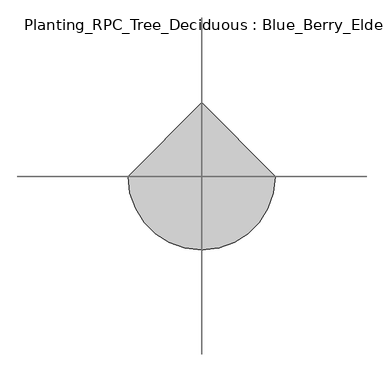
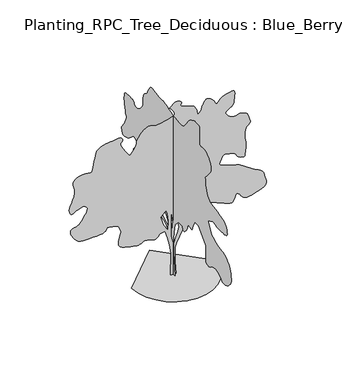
"""IFC4 building model written with IfcOpenShell, lengths in millimetres: geographic element geometry, Planting_RPC_Tree_Deciduous : Blue_Berry_Elder-4.5_Meters."""

from ifc_helpers import new_model, si_unit, origin, place, context, project, spatial, triangles, source, transform, mapped, element, save


def planting_rpc_tree_deciduous_blue_berry_elder_4_5_meters_08da9c25(model_context):
    return source(origin(), model_context, "Body", "Tessellation", [
        triangles([(-0.0014684, 58.7037978, 0.0041346), (-0.0014684, -62.498052, 0.0041346), (-0.0014684, -15.3641626, 565.6129683), (-0.0014684, -1.8971866, 909.0182064), (-0.0014684, -22.0974929, 1104.2884094), (-0.0014684, -75.9650625, 1326.4911255), (-0.0014684, -224.1009287, 1474.6287403), (-0.0014684, -378.970291, 1474.6287403), (-0.0014684, -412.6378218, 1380.3586224), (-0.0014684, -479.9703761, 1387.0936764), (-0.0014684, -554.0404552, 1474.6287403), (-0.0014684, -601.1729708, 1568.8962421), (-0.0014684, -628.1080273, 1663.1638893), (-0.0014684, -702.1755266, 1636.2313763), (-0.0014684, -782.9756092, 1629.4963223), (-0.0014684, -857.0431812, 1797.8338669), (-0.0014684, -910.9107508, 1898.833952), (-0.0014684, -1059.0483656, 1892.1015141), (-0.0014684, -1173.5159426, 1797.8338669), (-0.0014684, -1382.2535648, 1575.6288254), (-0.0014684, -1388.9861481, 1353.4261093), (-0.0014684, -1386.9236286, 1327.021035), (-0.0014684, -1382.3910564, 1295.553479), (-0.0014684, -1377.8561588, 1261.3760593), (-0.0014684, -1375.7936394, 1226.8434288), (-0.0014684, -1378.6786377, 1194.3159811), (-0.0014684, -1388.9861481, 1166.1458982), (-0.0014684, -1409.1860779, 1144.6884144), (-0.0014684, -1434.4711624, 1129.1809307), (-0.0014684, -1458.931152, 1117.9109064), (-0.0014684, -1483.3911415, 1111.8258854), (-0.0014684, -1508.676226, 1111.8658539), (-0.0014684, -1535.6112099, 1118.9734142), (-0.0014684, -1565.0162464, 1134.0884073), (-0.0014684, -1597.723843, 1158.1559063), (-0.0014684, -1638.2812511, 1183.6959171), (-0.0014684, -1688.0263252, 1202.5209309), (-0.0014684, -1742.9539318, 1214.5159836), (-0.0014684, -1799.0589375, 1219.5610245), (-0.0014684, -1852.3364994, 1217.5409443), (-0.0014684, -1898.783955, 1208.3334394), (-0.0014684, -1934.3939907, 1191.8234734), (-0.0014684, -1963.8416119, 1167.0484594), (-0.0014684, -1995.1715309, 1136.2684341), (-0.0014684, -2029.446619, 1104.1908863), (-0.0014684, -2067.729166, 1075.5283916), (-0.0014684, -2111.0741947, 1054.9958513), (-0.0014684, -2160.5442856, 1047.2983561), (-0.0014684, -2217.1992577, 1057.1533504), (-0.0014684, -2275.1493542, 1083.4008762), (-0.0014684, -2327.094294, 1119.5408941), (-0.0014684, -2371.9694618, 1162.2784018), (-0.0014684, -2408.7193989, 1208.3134552), (-0.0014684, -2436.2819607, 1254.348436), (-0.0014684, -2453.5944214, 1297.0834728), (-0.0014684, -2459.6019035, 1333.2260342), (-0.0014684, -2455.754464, 1372.7236233), (-0.0014684, -2445.3120781, 1424.1161259), (-0.0014684, -2429.919413, 1481.9887562), (-0.0014684, -2411.2318909, 1540.9212055), (-0.0014684, -2390.8944695, 1595.4962173), (-0.0014684, -2370.5569027, 1640.2937737), (-0.0014684, -2351.8669098, 1669.8963272), (-0.0014684, -2330.1568977, 1694.4363991), (-0.0014684, -2300.1992786, 1725.2163517), (-0.0014684, -2262.8217636, 1758.5913494), (-0.0014684, -2218.8493023, 1790.903912), (-0.0014684, -2169.1042282, 1818.5039715), (-0.0014684, -2114.4116364, 1837.74146), (-0.0014684, -2055.5966217, 1844.9664551), (-0.0014684, -1994.4066067, 1849.8740044), (-0.0014684, -1932.1564819, 1863.6164795), (-0.0014684, -1869.0239983, 1884.7189705), (-0.0014684, -1805.1839996, 1911.7115089), (-0.0014684, -1740.8139462, 1943.1215103), (-0.0014684, -1676.0888271, 1977.4765354), (-0.0014684, -1611.1887188, 2013.3016743), (-0.0014684, -1469.786158, 2275.9068661), (-0.0014684, -1685.2562908, 2376.9094219), (-0.0014684, -1714.2713802, 2368.3093655), (-0.0014684, -1744.228854, 2360.0643745), (-0.0014684, -1776.0713871, 2352.5268986), (-0.0014684, -1810.7388931, 2346.049387), (-0.0014684, -1849.1765179, 2340.9844345), (-0.0014684, -1892.3265003, 2337.686816), (-0.0014684, -1941.1290447, 2336.5068008), (-0.0014684, -1996.881601, 2336.291843), (-0.0014684, -2057.3441895, 2336.4293346), (-0.0014684, -2118.1616982, 2338.0968201), (-0.0014684, -2174.9742188, 2342.4769306), (-0.0014684, -2223.421843, 2350.7393623), (-0.0014684, -2259.1517841, 2364.0693626), (-0.0014684, -2277.7993378, 2383.6418598), (-0.0014684, -2281.3742649, 2414.4819832), (-0.0014684, -2275.8767807, 2457.2194908), (-0.0014684, -2262.9592552, 2506.4269524), (-0.0014684, -2244.2692623, 2556.7020813), (-0.0014684, -2221.4593174, 2602.6271851), (-0.0014684, -2196.1742329, 2638.7770134), (-0.0014684, -2170.0641987, 2659.7021896), (-0.0014684, -2143.7191498, 2670.2021301), (-0.0014684, -2115.1367374, 2679.2771576), (-0.0014684, -2082.0791622, 2687.9772079), (-0.0014684, -2042.3065899, 2697.4022141), (-0.0014684, -1993.581657, 2708.6021118), (-0.0014684, -1933.6665642, 2722.6021294), (-0.0014684, -1860.3264187, 2740.5021996), (-0.0014684, -1781.7239491, 2758.3022758), (-0.0014684, -1708.0688519, 2773.1522415), (-0.0014684, -1640.1837513, 2787.8522163), (-0.0014684, -1578.8962132, 2805.302314), (-0.0014684, -1525.0287163, 2828.2773651), (-0.0014684, -1479.4062103, 2859.6021973), (-0.0014684, -1442.8536449, 2902.1272179), (-0.0014684, -1414.8411106, 2953.5272781), (-0.0014684, -1393.5411026, 3009.1773697), (-0.0014684, -1377.8361019, 3068.3775352), (-0.0014684, -1366.6061188, 3130.3775299), (-0.0014684, -1358.7336342, 3194.527684), (-0.0014684, -1353.1011292, 3260.0777527), (-0.0014684, -1348.5861431, 3326.3277786), (-0.0014684, -1398.7811897, 3378.2528069), (-0.0014684, -1447.1536732, 3430.0528427), (-0.0014684, -1491.8711472, 3481.6278923), (-0.0014684, -1531.1136646, 3532.8529633), (-0.0014684, -1563.0537209, 3583.577774), (-0.0014684, -1585.8662819, 3633.7529091), (-0.0014684, -1597.723843, 3683.2030884), (-0.0014684, -1593.7187096, 3737.8779488), (-0.0014684, -1572.2812099, 3799.8529449), (-0.0014684, -1536.5912373, 3863.2281464), (-0.0014684, -1489.8311554, 3922.153038), (-0.0014684, -1435.1786774, 3970.7032722), (-0.0014684, -1375.8135509, 4002.9783371), (-0.0014684, -1314.918576, 4013.128299), (-0.0014684, -1258.4585049, 4010.1031929), (-0.0014684, -1210.3634754, 4007.7533363), (-0.0014684, -1170.7484516, 4007.6533424), (-0.0014684, -1139.7309408, 4011.3281181), (-0.0014684, -1117.4309212, 4020.3031517), (-0.0014684, -1103.9633566, 4036.1033501), (-0.0014684, -1099.4483706, 4060.2783279), (-0.0014684, -1101.1558971, 4105.3531929), (-0.0014684, -1104.8659178, 4175.1532928), (-0.0014684, -1108.4583584, 4258.1534592), (-0.0014684, -1109.8133629, 4342.8035248), (-0.0014684, -1106.8083864, 4417.5536133), (-0.0014684, -1097.3283691, 4470.8785561), (-0.0014684, -1079.2483681, 4491.2034782), (-0.0014684, -1052.7858118, 4492.578685), (-0.0014684, -1020.9033102, 4495.6035004), (-0.0014684, -985.6082989, 4498.6286064), (-0.0014684, -948.8982576, 4500.0035225), (-0.0014684, -912.7757532, 4498.07864), (-0.0014684, -879.2456778, 4491.2034782), (-0.0014684, -850.3106707, 4477.7537178), (-0.0014684, -822.8281912, 4461.7535316), (-0.0014684, -792.8706448, 4447.2035477), (-0.0014684, -761.2631264, 4432.1535942), (-0.0014684, -728.8330564, 4414.7534935), (-0.0014684, -696.4030592, 4393.1286507), (-0.0014684, -664.7980116, 4365.3786003), (-0.0014684, -634.8405378, 4329.6034584), (-0.0014684, -604.8054889, 4286.4284775), (-0.0014684, -572.6504748, 4239.8534134), (-0.0014684, -538.7279451, 4193.0283646), (-0.0014684, -503.3903855, 4149.1534264), (-0.0014684, -466.9953687, 4111.403405), (-0.0014684, -429.8928369, 4082.9533974), (-0.0014684, -392.4378193, 4067.0032082), (-0.0014684, -354.0977903, 4061.0282822), (-0.0014684, -314.1102602, 4059.6533661), (-0.0014684, -272.4727218, 4061.703241), (-0.0014684, -229.185175, 4065.9782707), (-0.0014684, -184.2498909, 4071.3282349), (-0.0014684, -137.6653616, 4076.5532066), (-0.0014684, -89.4320684, 4080.4782578), (-0.0014684, -32.5020268, 4087.803392), (-0.0014684, 35.3820291, 4102.1033913), (-0.0014684, 107.0353362, 4120.403437), (-0.0014684, 175.2726409, 4139.7534187), (-0.0014684, 232.909439, 4157.2282242), (-0.0014684, 272.7602224, 4169.8783241), (-0.0014684, 287.6402371, 4174.7283188), (-0.0014684, 295.8277279, 4177.2784538), (-0.0014684, 318.5002539, 4183.6033585), (-0.0014684, 352.8352947, 4191.7034454), (-0.0014684, 396.002827, 4199.553257), (-0.0014684, 445.1803485, 4205.1534966), (-0.0014684, 497.5354013, 4206.5284126), (-0.0014684, 550.2454471, 4201.678418), (-0.0014684, 608.3329988, 4200.728476), (-0.0014684, 675.2555128, 4211.4534027), (-0.0014684, 745.8280947, 4228.1782539), (-0.0014684, 814.8706827, 4245.2533745), (-0.0014684, 877.2006718, 4257.0285278), (-0.0014684, 927.6307331, 4257.8534775), (-0.0014684, 960.9857466, 4242.0782776), (-0.0014684, 983.9932812, 4214.9534798), (-0.0014684, 1006.5283155, 4185.8032242), (-0.0014684, 1028.123291, 4155.1533508), (-0.0014684, 1048.3033092, 4123.4282524), (-0.0014684, 1066.5983408, 4091.1031906), (-0.0014684, 1082.5408997, 4058.6781349), (-0.0014684, 1095.6533987, 4026.6033485), (-0.0014684, 1111.3183582, 3999.2282753), (-0.0014684, 1133.5808802, 3978.353096), (-0.0014684, 1159.9634268, 3960.5283119), (-0.0014684, 1187.9984161, 3942.3532585), (-0.0014684, 1215.2059851, 3920.4031448), (-0.0014684, 1239.1159355, 3891.2531799), (-0.0014684, 1257.255962, 3851.5279884), (-0.0014684, 1268.2685165, 3817.1530518), (-0.0014684, 1273.6285091, 3800.8031776), (-0.0014684, 1275.1009483, 3794.1030052), (-0.0014684, 1274.4534588, 3788.7030441), (-0.0014684, 1273.451049, 3776.252932), (-0.0014684, 1273.8635239, 3748.3528908), (-0.0014684, 1277.4560371, 3696.6528488), (-0.0014684, 1283.7985279, 3637.6029648), (-0.0014684, 1291.9060272, 3591.1778915), (-0.0014684, 1302.7210648, 3554.2528198), (-0.0014684, 1317.1884956, 3523.8279327), (-0.0014684, 1336.2511402, 3496.8278366), (-0.0014684, 1360.8486214, 3470.1527206), (-0.0014684, 1391.9260849, 3440.8027679), (-0.0014684, 1427.2211689, 3411.5778076), (-0.0014684, 1463.2262386, 3387.677813), (-0.0014684, 1498.9912067, 3369.4027657), (-0.0014684, 1533.5812466, 3357.1526413), (-0.0014684, 1566.0512123, 3351.2777092), (-0.0014684, 1595.4587196, 3352.1026588), (-0.0014684, 1620.8612389, 3360.002758), (-0.0014684, 1639.7087803, 3375.502684), (-0.0014684, 1652.8988182, 3396.6528465), (-0.0014684, 1664.6787678, 3420.0528717), (-0.0014684, 1679.2838356, 3442.2776779), (-0.0014684, 1700.9563499, 3459.9027649), (-0.0014684, 1733.936459, 3469.5277588), (-0.0014684, 1782.4638748, 3467.7278687), (-0.0014684, 1840.5514629, 3464.2277916), (-0.0014684, 1897.5815575, 3466.9779144), (-0.0014684, 1950.8390625, 3469.852739), (-0.0014684, 1997.6215267, 3466.7026405), (-0.0014684, 2035.2141449, 3451.4277008), (-0.0014684, 2060.9117043, 3417.9027122), (-0.0014684, 2072.001725, 3360.002758), (-0.0014684, 2074.396637, 3302.252504), (-0.0014684, 2075.4967152, 3266.6526421), (-0.0014684, 2074.8291687, 3243.2026199), (-0.0014684, 2071.9241135, 3221.8774681), (-0.0014684, 2066.3091946, 3192.6275093), (-0.0014684, 2057.5140919, 3145.5024788), (-0.0014684, 2045.0690666, 3070.4524086), (-0.0014684, 2028.7941879, 2993.7774376), (-0.0014684, 2011.3440903, 2941.8274109), (-0.0014684, 1996.4816254, 2904.7273499), (-0.0014684, 1987.9815628, 2872.5772774), (-0.0014684, 1989.6115505, 2835.4772163), (-0.0014684, 2005.1390911, 2783.5271896), (-0.0014684, 2038.3341579, 2706.8522186), (-0.0014684, 2081.1516026, 2626.4521843), (-0.0014684, 2121.1391327, 2566.6770538), (-0.0014684, 2155.4742462, 2522.5771294), (-0.0014684, 2181.326738, 2489.1794586), (-0.0014684, 2195.8742512, 2461.5570168), (-0.0014684, 2196.286726, 2434.7619953), (-0.0014684, 2179.7367187, 2403.841935), (-0.0014684, 2160.4392048, 2371.8244125), (-0.0014684, 2149.859182, 2345.5768867), (-0.0014684, 2141.0441677, 2325.9269234), (-0.0014684, 2127.0467663, 2313.6968559), (-0.0014684, 2100.919146, 2309.7117794), (-0.0014684, 2055.7091148, 2314.7967888), (-0.0014684, 1984.4665157, 2329.7743629), (-0.0014684, 1906.7289642, 2358.6118469), (-0.0014684, 1844.06651, 2399.6994553), (-0.0014684, 1792.5939251, 2445.4995667), (-0.0014684, 1748.4239468, 2488.4719437), (-0.0014684, 1707.671347, 2521.0769302), (-0.0014684, 1666.4437763, 2535.7769051), (-0.0014684, 1620.8612389, 2525.0519783), (-0.0014684, 1576.9086891, 2499.6619583), (-0.0014684, 1542.1411892, 2475.3396057), (-0.0014684, 1515.031216, 2451.8994667), (-0.0014684, 1494.0461597, 2429.166988), (-0.0014684, 1477.653701, 2406.9644188), (-0.0014684, 1464.3237007, 2385.1144444), (-0.0014684, 1452.526165, 2363.44193), (-0.0014684, 1471.2737125, 2344.7718487), (-0.0014684, 1489.9612347, 2326.634293), (-0.0014684, 1508.5336475, 2309.5543762), (-0.0014684, 1526.9262749, 2294.0668041), (-0.0014684, 1545.0862129, 2280.6968353), (-0.0014684, 1562.9512562, 2269.9793209), (-0.0014684, 1580.4612339, 2262.4393742), (-0.0014684, 1599.1313152, 2259.024321), (-0.0014684, 1619.331245, 2258.1993713), (-0.0014684, 1639.2963055, 2256.7868122), (-0.0014684, 1657.2588718, 2251.6042797), (-0.0014684, 1671.4513195, 2239.4717354), (-0.0014684, 1680.1087852, 2217.2092861), (-0.0014684, 1681.4637897, 2181.6392189), (-0.0014684, 1676.9863014, 2141.9842266), (-0.0014684, 1669.5664055, 2107.6292015), (-0.0014684, 1659.5537899, 2075.6315907), (-0.0014684, 1647.3038109, 2043.0441902), (-0.0014684, 1633.1712433, 2006.9215405), (-0.0014684, 1617.5037403, 1964.3241405), (-0.0014684, 1600.6613091, 1912.3015892), (-0.0014684, 1583.268766, 1853.7415009), (-0.0014684, 1567.0537674, 1795.0639778), (-0.0014684, 1554.0188072, 1738.6264343), (-0.0014684, 1546.1662342, 1686.7788723), (-0.0014684, 1545.4986877, 1641.8837929), (-0.0014684, 1554.0188072, 1606.2938141), (-0.0014684, 1573.728796, 1582.3637341), (-0.0014684, 1599.1112583, 1566.4212479), (-0.0014684, 1623.4337563, 1552.9562267), (-0.0014684, 1646.8737499, 1541.5487835), (-0.0014684, 1669.606374, 1531.7937103), (-0.0014684, 1691.8087978, 1523.2737362), (-0.0014684, 1713.6589176, 1515.5787117), (-0.0014684, 1735.331432, 1508.2936913), (-0.0014684, 1758.2389, 1518.0512352), (-0.0014684, 1780.0888744, 1525.7462597), (-0.0014684, 1799.8189201, 1529.318716), (-0.0014684, 1816.3664566, 1526.7087009), (-0.0014684, 1828.676461, 1515.8536949), (-0.0014684, 1835.6840275, 1494.6911785), (-0.0014684, 1836.331517, 1461.1611031), (-0.0014684, 1830.501495, 1425.4711304), (-0.0014684, 1819.3715057, 1398.2636341), (-0.0014684, 1803.8239082, 1378.1211136), (-0.0014684, 1784.7414974, 1363.6336258), (-0.0014684, 1763.0089577, 1353.3861408), (-0.0014684, 1739.5114094, 1345.9660995), (-0.0014684, 1715.128886, 1339.9586174), (-0.0014684, 1703.5663651, 1332.6360992), (-0.0014684, 1691.8864094, 1324.6660915), (-0.0014684, 1679.9712936, 1315.4011047), (-0.0014684, 1667.701403, 1304.1910332), (-0.0014684, 1654.9613377, 1290.3910034), (-0.0014684, 1641.6313374, 1273.3510551), (-0.0014684, 1627.5962929, 1252.4235535), (-0.0014684, 1608.2588104, 1230.1234612), (-0.0014684, 1580.0887276, 1209.2360006), (-0.0014684, 1544.5563034, 1189.5259392), (-0.0014684, 1503.1336864, 1170.7584074), (-0.0014684, 1457.2962227, 1152.6983906), (-0.0014684, 1408.5135899, 1135.1084032), (-0.0014684, 1358.2585178, 1117.7559013), (-0.0014684, 1196.6559546, 1212.0234758), (-0.0014684, 1035.0533186, 1090.8208448), (-0.0014684, 1013.4382862, 1088.0133854), (-0.0014684, 992.0007866, 1085.6783535), (-0.0014684, 970.9182798, 1084.2833805), (-0.0014684, 950.3632845, 1084.3033648), (-0.0014684, 930.5182749, 1086.2083357), (-0.0014684, 911.5532261, 1090.4683954), (-0.0014684, 893.6506851, 1097.5558989), (-0.0014684, 877.0431959, 1106.938393), (-0.0014684, 861.3756929, 1117.3809242), (-0.0014684, 845.9456755, 1128.295883), (-0.0014684, 830.0456285, 1139.0934071), (-0.0014684, 812.9656391, 1149.1834162), (-0.0014684, 794.0031338, 1157.9784462), (-0.0014684, 772.4481268, 1164.8884169), (-0.0014684, 748.1855816, 1170.2684664), (-0.0014684, 721.8005642, 1174.9409283), (-0.0014684, 693.6505383, 1179.0234552), (-0.0014684, 664.0855551, 1182.6359528), (-0.0014684, 633.4605349, 1185.8934574), (-0.0014684, 602.1304705, 1188.9184181), (-0.0014684, 570.4454495, 1191.8234734), (-0.0014684, 361.7077909, 1131.2209225), (-0.0014684, 186.6391528, 1003.2857809), (-0.0014684, 92.3710696, 848.418199), (-0.0014684, 45.2367873, 552.1454401), (-0.0013758, 65.4370532, 1097.5558989), (-0.0013758, 166.4388778, 1313.0261044), (-0.0013758, 4.8361539, 1380.3586224), (-0.0013882, 307.8402577, 1171.6234709), (-0.0013882, 469.4428937, 1279.3585373), (-0.0013882, 597.3779626, 1286.0909752), (-0.0013882, 705.1130653, 1346.6910553), (-0.0013882, 699.3030275, 1349.8135391), (-0.0013882, 693.2555769, 1354.3485821), (-0.0013882, 686.7405676, 1361.7110687), (-0.0013882, 679.5155725, 1373.3110874), (-0.0013882, 671.3480478, 1390.5686096), (-0.0013882, 662.0055222, 1414.8911076), (-0.0013882, 651.2454958, 1447.6936111), (-0.0013882, 642.6479828, 1480.1036968), (-0.0013882, 639.3505096, 1503.3287327), (-0.0013882, 640.4680286, 1518.8962418), (-0.0013882, 645.1205063, 1528.3386887), (-0.0013882, 652.425511, 1533.1862125), (-0.0013882, 661.4930534, 1534.9737488), (-0.0013882, 671.4480417, 1535.2286751), (-0.0013882, 678.1805523, 1616.0288303), (-0.0013882, 597.3779626, 1669.8963272), (-0.0013882, 422.3103418, 1521.7611832), (-0.0013882, 301.1077472, 1380.3586224), (-0.0013882, 220.3061749, 1265.8910454), (-0.0013882, 139.504866, 1084.0883343), (66.6360534, 0.0002629, 0.0), (-68.0330566, 0.0002629, 0.0), (-61.2998012, 0.0002272, 552.142933), (-94.9670776, 0.0002139, 794.5456152), (-142.1008648, 0.0002005, 996.5483288), (-202.7016535, 0.0001916, 1178.3509672), (-323.9027584, 0.0001916, 1164.8859461), (-344.1627863, 0.0001916, 1136.3209019), (-364.7752999, 0.000196, 1109.5258804), (-386.0952922, 0.000196, 1086.2633469), (-408.4753215, 0.000196, 1068.3008532), (-432.2678372, 0.0002005, 1057.4058786), (-457.8253615, 0.0002005, 1055.3433592), (-485.5053944, 0.000196, 1063.8833176), (-514.9529065, 0.000196, 1076.7408903), (-545.4604194, 0.000196, 1086.7733448), (-576.8504728, 0.000196, 1094.448385), (-608.9454978, 0.000196, 1100.2409094), (-641.5730484, 0.000196, 1104.6184038), (-674.5530121, 0.000196, 1108.0533686), (-707.7105812, 0.000196, 1111.0183765), (-735.2131176, 0.000196, 1095.3133759), (-763.2456362, 0.000196, 1080.6083868), (-792.3406626, 0.000196, 1067.9083626), (-823.0231647, 0.000196, 1058.210844), (-855.8256683, 0.0002005, 1052.5183136), (-891.280699, 0.0002005, 1051.8308556), (-929.9132246, 0.0002005, 1057.1508797), (-979.8558157, 0.000196, 1066.7883728), (-1044.1658438, 0.000196, 1079.0183676), (-1115.7808765, 0.000196, 1094.7833937), (-1187.630924, 0.000196, 1115.0233646), (-1252.6485397, 0.0001916, 1140.6808828), (-1303.7660591, 0.0001916, 1172.6984053), (-1333.9185791, 0.0001871, 1212.0184616), (-1343.6560661, 0.0001871, 1258.8785374), (-1340.9085594, 0.0001827, 1310.6835148), (-1329.6785763, 0.0001782, 1364.141153), (-1313.9735756, 0.0001782, 1415.9461304), (-1297.7985455, 0.0001738, 1462.8062061), (-1285.1560032, 0.0001738, 1501.4186749), (-1280.0510822, 0.0001693, 1528.4911503), (-1282.3885849, 0.0001693, 1551.6362492), (-1288.8460396, 0.0001693, 1579.2562202), (-1298.6035835, 0.0001648, 1609.2337509), (-1310.8335056, 0.0001648, 1639.4462963), (-1324.7136177, 0.0001604, 1667.7737823), (-1339.4160633, 0.0001604, 1692.0964256), (-1354.121125, 0.0001604, 1710.2938614), (-1373.4561367, 0.0001604, 1723.3488785), (-1401.6286903, 0.0001559, 1733.9289013), (-1437.1586437, 0.0001559, 1742.4488754), (-1478.5811153, 0.0001559, 1749.3189503), (-1524.4187244, 0.0001559, 1754.9539261), (-1573.2012119, 0.0001559, 1759.7639523), (-1623.456284, 0.0001559, 1764.1613583), (-1631.2713593, 0.0001559, 1738.3664211), (-1642.6763317, 0.0001604, 1713.631303), (-1661.2663307, 0.0001604, 1691.0164043), (-1690.6363403, 0.0001604, 1671.5813988), (-1734.3739323, 0.0001604, 1656.386396), (-1796.0739452, 0.0001648, 1646.4938313), (-1879.3290379, 0.0001648, 1642.9588726), (-1971.5741341, 0.0001648, 1640.6613384), (-2057.4616241, 0.0001648, 1636.1262955), (-2136.396777, 0.0001648, 1632.8888477), (-2207.7943085, 0.0001648, 1634.478867), (-2271.0667545, 0.0001648, 1644.4313118), (-2325.619384, 0.0001604, 1666.2812862), (-2370.8693836, 0.0001604, 1703.5614235), (-2411.8019142, 0.0001559, 1752.5588688), (-2450.9643494, 0.0001559, 1805.3264328), (-2484.1219185, 0.0001515, 1859.0389973), (-2507.0269157, 0.000147, 1910.8640316), (-2515.4519829, 0.0001426, 1957.9790337), (-2505.1520302, 0.0001426, 1997.554089), (-2471.8720848, 0.0001426, 2026.7640793), (-2428.4668854, 0.0001381, 2045.1190636), (-2390.1269291, 0.0001381, 2056.5266521), (-2356.1468811, 0.0001381, 2064.7515862), (-2325.816901, 0.0001381, 2073.5666004), (-2298.4317993, 0.0001381, 2086.7391975), (-2273.2843517, 0.0001337, 2108.0367348), (-2249.6667526, 0.0001337, 2141.2342724), (-2221.7142437, 0.0001292, 2184.9518074), (-2187.6342018, 0.0001292, 2233.7342949), (-2152.8467903, 0.0001247, 2285.2267914), (-2122.7717365, 0.0001203, 2337.0718826), (-2102.826733, 0.0001203, 2386.9169506), (-2098.4291817, 0.0001158, 2432.401965), (-2114.9992458, 0.0001158, 2471.1718369), (-2145.426749, 0.0001114, 2498.537027), (-2178.6816959, 0.0001114, 2512.8271431), (-2214.2917316, 0.0001114, 2516.2269356), (-2251.7868267, 0.0001114, 2510.9019699), (-2290.6968063, 0.0001114, 2499.0494957), (-2330.5468449, 0.0001114, 2482.831881), (-2370.8693836, 0.0001158, 2464.439399), (-2399.569376, 0.0001158, 2448.8118645), (-2427.3294548, 0.0001158, 2434.6593853), (-2453.2020035, 0.0001158, 2423.4494591), (-2476.2471085, 0.0001158, 2416.6569958), (-2495.5270363, 0.0001158, 2415.7544346), (-2510.1020187, 0.0001158, 2422.2118893), (-2519.0020569, 0.0001158, 2437.5044151), (-2525.7269371, 0.0001158, 2456.4494797), (-2533.1520653, 0.0001158, 2474.4518692), (-2539.5019684, 0.0001114, 2493.8669632), (-2543.0270439, 0.0001114, 2517.0518852), (-2541.977108, 0.0001114, 2546.3521317), (-2534.5519798, 0.0001069, 2584.15215), (-2519.0020569, 0.0001025, 2632.7770889), (-2498.1969315, 0.0001025, 2684.6521202), (-2477.0345604, 9.8e-05, 2732.0771324), (-2456.8145737, 9.8e-05, 2777.1272896), (-2438.8319504, 9.36e-05, 2821.9271713), (-2424.3844311, 8.91e-05, 2868.6522263), (-2414.7643787, 8.91e-05, 2919.3523293), (-2411.2693886, 8.47e-05, 2976.1773491), (-2415.2169674, 8.02e-05, 3030.6775108), (-2424.696912, 8.02e-05, 3074.9274261), (-2436.1819668, 7.57e-05, 3111.8774963), (-2446.1344116, 7.57e-05, 3144.4525429), (-2451.0245201, 7.13e-05, 3175.6276749), (-2447.311956, 7.13e-05, 3208.3274231), (-2431.4719345, 6.68e-05, 3245.527478), (-2401.6519524, 6.68e-05, 3281.1526291), (-2361.1144558, 6.24e-05, 3307.9527374), (-2313.9793968, 6.24e-05, 3326.977739), (-2264.3718143, 6.24e-05, 3339.2775696), (-2216.4142765, 6.24e-05, 3345.9277451), (-2174.2267353, 6.24e-05, 3348.0026184), (-2141.9342297, 6.24e-05, 3346.5277084), (-2114.2341763, 6.24e-05, 3341.002755), (-2084.4141941, 6.24e-05, 3332.902668), (-2054.4766319, 6.24e-05, 3326.2027863), (-2026.4241291, 6.24e-05, 3324.9275734), (-2002.2565636, 6.24e-05, 3333.0776573), (-1983.9815163, 6.24e-05, 3354.6527939), (-1973.5965397, 5.79e-05, 3393.652739), (-1964.8216393, 5.35e-05, 3450.0277863), (-1951.2165104, 5.35e-05, 3517.3777451), (-1934.5515392, 4.9e-05, 3590.1279556), (-1916.5889729, 4.46e-05, 3662.7528831), (-1899.0965813, 4.01e-05, 3729.7278648), (-1883.8440239, 3.56e-05, 3785.5279472), (-1872.5939838, 3.12e-05, 3824.6031784), (-1852.5114887, 3.12e-05, 3852.8781967), (-1813.3489082, 3.12e-05, 3879.4030312), (-1760.7564789, 2.67e-05, 3903.2280304), (-1700.3914135, 2.67e-05, 3923.3782539), (-1637.906274, 2.67e-05, 3938.9531754), (-1578.9537678, 2.67e-05, 3948.9781448), (-1529.1887821, 2.67e-05, 3952.5282188), (-1482.7811497, 2.67e-05, 3955.978299), (-1432.4861092, 2.67e-05, 3963.6781197), (-1381.8386192, 2.67e-05, 3971.6032173), (-1334.3710224, 2.23e-05, 3975.7782532), (-1293.6160973, 2.67e-05, 3972.1531837), (-1263.1109825, 2.67e-05, 3956.7782501), (-1246.3835152, 2.67e-05, 3925.6031181), (-1245.9735111, 3.12e-05, 3891.2531799), (-1257.1035004, 3.12e-05, 3865.2780212), (-1272.3560577, 3.12e-05, 3842.0279869), (-1284.3134674, 3.56e-05, 3815.8281326), (-1285.5485664, 3.56e-05, 3781.0029327), (-1268.6459644, 4.01e-05, 3731.9530197), (-1226.1859108, 4.46e-05, 3663.0028679), (-1175.7534513, 4.9e-05, 3589.303006), (-1137.6884056, 4.9e-05, 3530.2028343), (-1108.6933731, 5.35e-05, 3486.3028976), (-1085.4708807, 5.35e-05, 3458.2028687), (-1064.7208391, 5.79e-05, 3446.4527138), (-1043.1458479, 5.35e-05, 3451.6776855), (-1017.4482885, 5.35e-05, 3474.4527489), (-990.2407923, 5.35e-05, 3507.3527756), (-966.3282984, 4.9e-05, 3542.2529709), (-945.7157484, 4.9e-05, 3578.7027809), (-928.403215, 4.46e-05, 3616.2028175), (-914.3857567, 4.46e-05, 3654.2778191), (-903.6682423, 4.01e-05, 3692.477813), (-896.2457302, 4.01e-05, 3730.3281189), (-882.6607309, 3.56e-05, 3773.9530724), (-855.1781788, 3.12e-05, 3826.1530838), (-816.3881773, 3.12e-05, 3881.5531906), (-768.880612, 2.67e-05, 3934.7281425), (-715.2480572, 2.23e-05, 3980.2282722), (-658.0830145, 2.23e-05, 4012.6533279), (-599.9754785, 2.23e-05, 4026.6033485), (-552.8204352, 2.23e-05, 4024.7781693), (-521.215424, 2.23e-05, 4016.1031174), (-496.7928958, 2.23e-05, 4004.503244), (-471.1953667, 2.23e-05, 3993.8533127), (-436.0553604, 2.23e-05, 3988.0280869), (-383.0128132, 2.23e-05, 3990.9032021), (-303.7027378, 2.23e-05, 4006.4031281), (-214.7551692, 2.23e-05, 4026.5783501), (-138.763614, 2.23e-05, 4042.5282486), (-76.3173075, 1.78e-05, 4056.5782631), (-28.0055217, 1.78e-05, 4071.1032486), (5.5830293, 1.78e-05, 4088.4533524), (23.8594698, 1.78e-05, 4110.9784309), (26.2347699, 1.34e-05, 4141.0533394), (18.3040142, 1.34e-05, 4173.7283798), (6.4862053, 8.9e-06, 4202.8533463), (-8.5707069, 8.9e-06, 4229.0534912), (-26.219021, 8.9e-06, 4252.8784904), (-45.810535, 4.5e-06, 4274.9533058), (-66.6978047, 4.5e-06, 4295.8284851), (-88.2330682, 4.5e-06, 4316.1284088), (-60.8870493, 4.5e-06, 4341.9035797), (-33.9532782, 0.0, 4366.5035316), (-7.8441564, 0.0, 4388.753627), (17.0283131, 0.0, 4407.4536484), (40.2517809, 0.0, 4421.4536659), (61.4140475, -4.5e-06, 4429.5534622), (80.1028141, -4.5e-06, 4430.6036888), (99.5373291, -4.5e-06, 4426.853627), (121.7990971, 0.0, 4421.2286797), (144.7671174, 0.0, 4413.4535728), (166.3221335, 0.0, 4403.3536079), (184.343399, 0.0, 4390.653511), (196.7109036, 0.0, 4375.1285866), (201.3046639, 0.0, 4356.5285591), (197.1231604, 4.5e-06, 4339.6534264), (187.641399, 4.5e-06, 4327.8285667), (177.4531401, 4.5e-06, 4318.7285408), (171.1516352, 4.5e-06, 4309.9784935), (173.3306447, 4.5e-06, 4299.2035698), (188.5838924, 4.5e-06, 4284.1033287), (221.5051751, 8.9e-06, 4262.2784981), (265.7927153, 8.9e-06, 4240.0534012), (311.140238, 8.9e-06, 4223.8285194), (356.135275, 8.9e-06, 4211.3784073), (399.3628326, 8.9e-06, 4200.4784912), (439.4103518, 1.34e-05, 4188.8533287), (474.8628754, 1.34e-05, 4174.2783463), (504.3103875, 1.34e-05, 4154.528389), (527.7304333, 1.34e-05, 4129.0781982), (546.555447, 1.78e-05, 4099.4032654), (561.5529327, 1.78e-05, 4066.203257), (573.4879601, 2.23e-05, 4030.1531319), (583.1279603, 2.23e-05, 3991.9781364), (591.2354596, 2.67e-05, 3952.4032265), (598.577962, 2.67e-05, 3912.1280685), (692.8455729, 2.23e-05, 3999.6532494), (692.2180676, 2.23e-05, 4003.2033234), (691.118062, 2.23e-05, 4013.1033005), (690.7255714, 2.23e-05, 4028.2782463), (692.2180676, 2.23e-05, 4047.7282219), (696.7730221, 1.78e-05, 4070.3282959), (705.5680521, 1.78e-05, 4095.0782387), (719.7805567, 1.78e-05, 4120.8534096), (736.0730942, 1.34e-05, 4147.7032242), (751.1906307, 1.34e-05, 4174.7783157), (766.4231312, 8.9e-06, 4199.8282402), (783.0706615, 8.9e-06, 4220.678421), (802.4256575, 8.9e-06, 4235.0284172), (825.7856415, 8.9e-06, 4240.6533646), (854.4482088, 8.9e-06, 4235.3283989), (884.2282225, 8.9e-06, 4222.4283142), (910.4757483, 8.9e-06, 4207.0283821), (933.7782503, 1.34e-05, 4189.5782845), (954.7232655, 1.34e-05, 4170.4782875), (973.9032721, 1.34e-05, 4150.1283669), (991.9032635, 1.34e-05, 4128.9782043), (1009.3183342, 1.78e-05, 4107.4033585), (1013.7732948, 1.78e-05, 4086.0282097), (1018.9957958, 1.78e-05, 4066.2282555), (1025.7482906, 1.78e-05, 4049.6281059), (1034.7983196, 2.23e-05, 4037.7782478), (1046.910807, 2.23e-05, 4032.3032913), (1062.8508224, 2.23e-05, 4034.7781403), (1083.3858335, 2.23e-05, 4046.8032784), (1105.9033545, 1.78e-05, 4067.7281639), (1128.3008972, 1.78e-05, 4093.828315), (1152.1133972, 1.78e-05, 4122.0533363), (1178.8709209, 1.34e-05, 4149.3534142), (1210.1034622, 1.34e-05, 4172.628447), (1247.3434856, 1.34e-05, 4188.8533287), (1292.120985, 1.34e-05, 4194.9282486), (1340.4335884, 8.9e-06, 4200.0782249), (1385.9186028, 8.9e-06, 4211.3534088), (1426.5736794, 8.9e-06, 4222.5033096), (1460.3986496, 8.9e-06, 4227.2783089), (1485.388694, 8.9e-06, 4219.4784943), (1499.543644, 1.34e-05, 4192.8033783), (1500.85868, 1.34e-05, 4141.0533394), (1496.0287422, 1.78e-05, 4077.628141), (1491.9061741, 2.23e-05, 4020.1781593), (1486.7236416, 2.67e-05, 3968.9780869), (1478.7161362, 2.67e-05, 3924.2532005), (1466.111237, 3.12e-05, 3886.2531944), (1447.1485863, 3.12e-05, 3855.2030548), (1420.05867, 3.12e-05, 3831.3280586), (1386.1536175, 3.56e-05, 3811.7280922), (1350.8386219, 3.56e-05, 3792.5031029), (1318.4660339, 3.56e-05, 3772.3278809), (1293.3985233, 3.56e-05, 3749.9030869), (1279.9910568, 4.01e-05, 3723.9529266), (1282.6010719, 4.01e-05, 3693.1530624), (1305.5884769, 4.46e-05, 3656.2529892), (1339.7660419, 4.46e-05, 3620.9528183), (1372.8836426, 4.9e-05, 3594.8529579), (1404.7061188, 4.9e-05, 3576.4029213), (1434.9961304, 4.9e-05, 3564.0778015), (1463.5211334, 4.9e-05, 3556.3279839), (1490.0411716, 4.9e-05, 3551.6529785), (1514.3261719, 4.9e-05, 3548.5278786), (1534.9186649, 4.9e-05, 3550.0027885), (1552.0962502, 4.9e-05, 3557.8278923), (1568.2112549, 4.9e-05, 3568.4778236), (1585.6263256, 4.9e-05, 3578.4527962), (1606.6888481, 4.9e-05, 3584.152739), (1633.7613235, 4.9e-05, 3582.1028641), (1669.1938992, 4.9e-05, 3568.7278084), (1706.7689312, 4.9e-05, 3552.8279068), (1738.9239452, 4.9e-05, 3542.9279297), (1766.0138615, 4.9e-05, 3535.1528229), (1788.3938908, 4.9e-05, 3525.6028244), (1806.4140118, 5.35e-05, 3510.4278786), (1820.4314701, 5.35e-05, 3485.6776451), (1830.7965351, 5.79e-05, 3447.5276482), (1843.1639488, 5.79e-05, 3405.1526184), (1859.6539307, 6.24e-05, 3369.1527809), (1875.3189629, 6.24e-05, 3337.6276703), (1885.2139984, 6.24e-05, 3308.7026917), (1884.3890488, 6.68e-05, 3280.4526718), (1867.8990669, 6.68e-05, 3251.0527222), (1830.7965351, 7.13e-05, 3218.5776695), (1790.6914249, 7.13e-05, 3174.2274696), (1766.368927, 7.57e-05, 3114.4526299), (1754.6488575, 8.02e-05, 3045.2524933), (1752.3514687, 8.47e-05, 2972.6522736), (1756.2964314, 8.91e-05, 2902.6271873), (1763.3064686, 9.36e-05, 2841.2021576), (1770.196455, 9.36e-05, 2794.3771088), (1774.2014431, 9.8e-05, 2756.2771088), (1775.0263927, 9.8e-05, 2717.1021744), (1773.198888, 0.0001025, 2677.0520027), (1769.2539253, 0.0001025, 2636.3021645), (1763.7189434, 0.0001069, 2595.0270676), (1757.121381, 0.0001069, 2553.3769936), (1749.9963799, 0.0001114, 2511.5769287), (1751.0764011, 0.0001114, 2490.1945129), (1749.9764683, 0.0001158, 2470.407058), (1744.5189526, 0.0001158, 2453.7993507), (1732.5238998, 0.0001158, 2441.9619919), (1711.8138268, 0.0001158, 2436.4844193), (1680.2063084, 0.0001158, 2438.9569427), (1635.5263321, 0.0001158, 2450.971907), (1592.8687614, 0.0001158, 2472.329615), (1564.6988239, 0.0001114, 2499.8145653), (1544.8911667, 0.0001114, 2530.4769379), (1527.3211636, 0.0001069, 2561.3770866), (1505.8637524, 0.0001069, 2589.5771095), (1474.3961964, 0.0001069, 2612.1021881), (1426.7911079, 0.0001069, 2626.0522087), (1373.8061153, 0.0001025, 2635.8521919), (1329.4210339, 0.0001025, 2646.0271523), (1292.338559, 0.0001025, 2653.6019806), (1261.2609501, 0.0001025, 2655.6521461), (1234.8984604, 0.0001025, 2649.2022491), (1211.9484804, 0.0001025, 2631.3521759), (1191.1209726, 0.0001069, 2599.1021095), (1170.9584679, 0.0001069, 2559.6521919), (1152.6834206, 0.0001114, 2522.5521309), (1139.0008982, 0.0001114, 2488.5071159), (1132.6209097, 0.0001158, 2458.2345451), (1136.2509207, 0.0001158, 2432.4394627), (1152.6034109, 0.0001158, 2411.8269127), (1184.3859186, 0.0001203, 2397.1044102), (1219.3110397, 0.0001203, 2386.6219105), (1246.1060612, 0.0001203, 2377.5519699), (1269.016, 0.0001203, 2368.8369495), (1292.2785336, 0.0001203, 2359.4119434), (1320.1359901, 0.0001203, 2348.2243996), (1356.8260471, 0.0001203, 2334.2067959), (1406.5911781, 0.0001247, 2316.3044003), (1459.7311031, 0.0001247, 2299.7343361), (1505.2162628, 0.0001247, 2288.4668552), (1545.2837299, 0.0001247, 2279.5543179), (1582.1713039, 0.0001247, 2270.0518456), (1618.1137321, 0.0001247, 2257.01674), (1655.3537556, 0.0001292, 2237.5042683), (1696.128883, 0.0001292, 2208.5692612), (1938.5315289, 0.0001381, 2040.2315712), (1981.0741356, 0.0001426, 2013.7116783), (2030.6815727, 0.0001426, 1989.6615475), (2082.8791134, 0.0001426, 1964.7890831), (2133.1942108, 0.000147, 1935.7940506), (2177.1467606, 0.000147, 1899.3789768), (2210.2642159, 0.0001515, 1852.246534), (2228.0692337, 0.0001559, 1791.0938713), (2241.2617424, 0.0001604, 1726.50886), (2258.5768192, 0.0001604, 1670.1688396), (2272.5942776, 0.0001648, 1620.4237656), (2275.8917507, 0.0001693, 1575.6237385), (2261.0493427, 0.0001693, 1534.1236553), (2220.6493378, 0.0001738, 1494.2737621), (2147.2692238, 0.0001738, 1454.4237236), (2059.4391197, 0.0001782, 1418.5387047), (1980.5615215, 0.0001782, 1391.6035755), (1910.5189945, 0.0001782, 1373.5036629), (1849.1914879, 0.0001782, 1364.121096), (1796.4614216, 0.0001782, 1363.3361149), (1752.2138317, 0.0001782, 1371.0311394), (1716.3288128, 0.0001782, 1387.0885895), (1685.0163345, 0.0001782, 1414.9836891), (1654.6488567, 0.0001738, 1452.773679), (1625.3388725, 0.0001738, 1492.2137135), (1597.2087582, 0.0001693, 1525.0561855), (1570.3712975, 0.0001693, 1543.0562496), (1544.9487213, 0.0001693, 1537.973711), (1521.0587551, 0.0001738, 1501.5561665), (1500.85868, 0.0001738, 1451.6536892), (1484.7811729, 0.0001782, 1411.5286674), (1470.3512398, 0.0001782, 1381.0610504), (1455.0986824, 0.0001782, 1360.1360195), (1436.5486519, 0.0001827, 1348.6310532), (1412.2236832, 0.0001827, 1346.4335129), (1379.656049, 0.0001827, 1353.4210224), (1340.768597, 0.0001782, 1366.1410309), (1299.4060055, 0.0001782, 1380.9835842), (1255.9810398, 0.0001782, 1397.5911461), (1210.9085003, 0.0001782, 1415.6111217), (1164.5984636, 0.0001738, 1434.6936779), (1117.4658754, 0.0001738, 1454.4811329), (1069.9183416, 0.0001738, 1474.6236534), (746.7130697, 0.0001648, 1609.2913055), (558.1779571, 0.0001693, 1528.4911503), (416.7753236, 0.0001827, 1339.9535305), (241.7051957, 0.000196, 1084.0833927), (73.3693089, 0.0002139, 787.8131046), (46.4355377, 0.0002183, 686.8105488), (46.4355377, 0.0002272, 558.8754436), (46.4355377, 0.000245, 289.537723), (-0.6985081, 8.02e-05, 760.8781208), (66.6360534, 6.68e-05, 949.4157406), (120.5033459, 5.79e-05, 1070.6158281), (140.7033666, 5.35e-05, 1178.3509672), (120.5033459, 4.46e-05, 1299.5535255), (59.9020486, 4.46e-05, 1326.4885094), (49.8315377, 4.46e-05, 1318.123613), (39.937783, 4.46e-05, 1311.5285213), (30.397025, 4.46e-05, 1308.4660629), (21.3865171, 4.46e-05, 1310.7035717), (13.0826351, 4.46e-05, 1320.008527), (5.6620545, 4.46e-05, 1338.1485535), (-0.6985081, 4.01e-05, 1366.8886597), (-6.8627806, 4.01e-05, 1401.5160519), (-13.7337354, 4.01e-05, 1436.1462055), (-21.1935919, 3.56e-05, 1470.7762138), (-29.1245236, 3.56e-05, 1505.4037514), (-37.408779, 3.12e-05, 1540.0337597), (-45.9287872, 3.12e-05, 1574.663768), (-54.5662914, 2.67e-05, 1609.2913055), (-61.2998012, 4.9e-05, 1279.3535957), (-54.5662914, 6.24e-05, 1003.2833101), (-128.634354, 8.47e-05, 1185.0859486), (-121.9003446, 7.13e-05, 1420.7561565), (-142.1008648, 6.24e-05, 1609.2913055), (-175.7681412, 5.35e-05, 1717.0264446), (-243.102694, 5.79e-05, 1649.6913105), (-310.4377373, 6.24e-05, 1575.6237385), (-236.368948, 7.57e-05, 1353.4210224), (-1016.5758127, 0.0, 0.0044197), (-989.7007816, -232.9319304, 0.0044197), (-913.1607588, -446.842856, 0.0044197), (-793.0856026, -635.6029913, 0.0044197), (-635.6029913, -793.0856026, 0.0044197), (-446.842856, -913.1607588, 0.0044197), (-232.9319304, -989.7007816, 0.0044197), (4.44e-05, -1016.5758127, 0.0044197), (232.9319304, -989.7007816, 0.0044197), (446.842856, -913.1607588, 0.0044197), (635.6029913, -793.0856026, 0.0044197), (793.0856026, -635.6029913, 0.0044197), (913.1607588, -446.842856, 0.0044197), (989.7007816, -232.9319304, 0.0044197), (1016.5758127, 8.91e-05, 0.0044197), (-0.0001333, 1016.5758127, 0.0044197)], [[379, 1, 382], [380, 404, 405], [379, 382, 380], [378, 379, 380], [404, 380, 381], [380, 405, 406], [377, 378, 380], [377, 380, 406], [376, 377, 406], [376, 406, 383], [376, 383, 384], [375, 376, 384], [375, 384, 385], [374, 375, 385], [1, 2, 3], [373, 374, 385], [373, 385, 386], [372, 373, 386], [371, 372, 386], [370, 371, 386], [8, 9, 10], [8, 10, 11], [369, 370, 386], [14, 15, 16], [13, 14, 16], [368, 369, 386], [8, 11, 12], [367, 368, 386], [8, 12, 13], [351, 352, 353], [404, 381, 382], [403, 404, 382], [148, 149, 150], [147, 148, 150], [147, 150, 151], [146, 147, 151], [146, 151, 152], [146, 152, 153], [146, 153, 154], [145, 146, 154], [145, 154, 155], [145, 155, 156], [145, 156, 157], [145, 157, 158], [144, 145, 158], [144, 158, 159], [144, 159, 160], [144, 160, 161], [144, 161, 162], [144, 162, 163], [143, 144, 163], [143, 163, 164], [143, 164, 165], [142, 143, 165], [142, 165, 166], [141, 142, 166], [141, 166, 167], [141, 167, 168], [141, 168, 169], [140, 141, 169], [366, 367, 386], [350, 351, 353], [7, 8, 13], [92, 93, 94], [91, 92, 94], [91, 94, 95], [90, 91, 95], [90, 95, 96], [89, 90, 96], [89, 96, 97], [88, 89, 97], [88, 97, 98], [88, 98, 99], [88, 99, 100], [88, 100, 101], [88, 101, 102], [88, 102, 103], [87, 88, 103], [87, 103, 104], [87, 104, 105], [86, 87, 105], [86, 105, 106], [85, 86, 106], [84, 85, 106], [84, 106, 107], [83, 84, 107], [82, 83, 107], [81, 82, 107], [81, 107, 108], [80, 81, 108], [79, 80, 108], [79, 108, 109], [79, 109, 110], [78, 79, 110], [78, 110, 111], [78, 111, 112], [78, 112, 113], [78, 113, 114], [349, 350, 353], [271, 272, 273], [270, 271, 273], [270, 273, 274], [269, 270, 274], [269, 274, 275], [268, 269, 275], [268, 275, 276], [267, 268, 276], [266, 267, 276], [265, 266, 276], [264, 265, 276], [263, 264, 276], [262, 263, 276], [262, 276, 277], [262, 277, 278], [261, 262, 278], [261, 278, 279], [260, 261, 279], [260, 279, 280], [259, 260, 280], [259, 280, 281], [258, 259, 281], [258, 281, 282], [327, 328, 329], [327, 329, 330], [326, 327, 330], [326, 330, 331], [325, 326, 331], [325, 331, 332], [324, 325, 332], [324, 332, 333], [324, 333, 334], [324, 334, 335], [324, 335, 336], [324, 336, 337], [324, 337, 338], [323, 324, 338], [322, 323, 338], [322, 338, 339], [321, 322, 339], [321, 339, 340], [320, 321, 340], [320, 340, 341], [320, 341, 342], [319, 320, 342], [319, 342, 343], [318, 319, 343], [318, 343, 344], [317, 318, 344], [317, 344, 345], [317, 345, 346], [317, 346, 347], [317, 347, 348], [317, 348, 349], [317, 349, 353], [316, 317, 353], [315, 316, 353], [314, 315, 353], [257, 258, 282], [13, 16, 17], [365, 366, 386], [244, 245, 246], [244, 246, 247], [243, 244, 247], [243, 247, 248], [242, 243, 248], [241, 242, 248], [241, 248, 249], [241, 249, 250], [241, 250, 251], [241, 251, 252], [241, 252, 253], [240, 241, 253], [240, 253, 254], [239, 240, 254], [238, 239, 254], [237, 238, 254], [236, 237, 254], [235, 236, 254], [234, 235, 254], [233, 234, 254], [233, 254, 255], [233, 255, 256], [233, 256, 257], [233, 257, 282], [232, 233, 282], [231, 232, 282], [230, 231, 282], [230, 282, 283], [229, 230, 283], [229, 283, 284], [228, 229, 284], [228, 284, 285], [227, 228, 285], [227, 285, 286], [226, 227, 286], [226, 286, 287], [225, 226, 287], [225, 287, 288], [224, 225, 288], [224, 288, 289], [396, 397, 398], [396, 398, 399], [395, 396, 399], [395, 399, 400], [394, 395, 400], [393, 394, 400], [392, 393, 400], [353, 354, 355], [223, 224, 289], [140, 169, 170], [300, 301, 302], [299, 300, 302], [299, 302, 303], [298, 299, 303], [297, 298, 303], [297, 303, 304], [296, 297, 304], [296, 304, 305], [296, 305, 306], [295, 296, 306], [295, 306, 307], [295, 307, 308], [294, 295, 308], [294, 308, 309], [293, 294, 309], [292, 293, 309], [292, 309, 310], [291, 292, 310], [291, 310, 311], [290, 291, 311], [289, 290, 311], [289, 311, 312], [353, 355, 356], [353, 356, 357], [353, 357, 358], [353, 358, 359], [353, 359, 360], [353, 360, 361], [353, 361, 362], [353, 362, 363], [353, 363, 364], [353, 364, 365], [353, 365, 386], [314, 353, 386], [313, 314, 386], [313, 386, 387], [313, 387, 388], [313, 388, 389], [313, 389, 390], [313, 390, 391], [313, 391, 392], [313, 392, 400], [313, 400, 401], [312, 313, 401], [289, 312, 401], [289, 401, 402], [223, 289, 402], [222, 223, 402], [221, 222, 402], [221, 402, 403], [221, 403, 382], [220, 221, 382], [219, 220, 382], [218, 219, 382], [217, 218, 382], [196, 197, 198], [196, 198, 199], [195, 196, 199], [195, 199, 200], [195, 200, 201], [194, 195, 201], [194, 201, 202], [194, 202, 203], [194, 203, 204], [194, 204, 205], [193, 194, 205], [193, 205, 206], [192, 193, 206], [78, 114, 115], [216, 217, 382], [26, 27, 28], [26, 28, 29], [25, 26, 29], [24, 25, 29], [24, 29, 30], [24, 30, 31], [24, 31, 32], [24, 32, 33], [24, 33, 34], [24, 34, 35], [23, 24, 35], [22, 23, 35], [22, 35, 36], [21, 22, 36], [21, 36, 37], [20, 21, 37], [20, 37, 38], [20, 38, 39], [20, 39, 40], [20, 40, 41], [192, 206, 207], [191, 192, 207], [215, 216, 382], [214, 215, 382], [213, 214, 382], [212, 213, 382], [211, 212, 382], [210, 211, 382], [209, 210, 382], [208, 209, 382], [207, 208, 382], [191, 207, 382], [190, 191, 382], [189, 190, 382], [188, 189, 382], [187, 188, 382], [186, 187, 382], [185, 186, 382], [184, 185, 382], [183, 184, 382], [182, 183, 382], [181, 182, 382], [180, 181, 382], [179, 180, 382], [178, 179, 382], [177, 178, 382], [176, 177, 382], [175, 176, 382], [174, 175, 382], [173, 174, 382], [172, 173, 382], [171, 172, 382], [170, 171, 382], [140, 170, 382], [139, 140, 382], [138, 139, 382], [137, 138, 382], [136, 137, 382], [135, 136, 382], [134, 135, 382], [133, 134, 382], [132, 133, 382], [131, 132, 382], [130, 131, 382], [129, 130, 382], [47, 48, 49], [46, 47, 49], [46, 49, 50], [45, 46, 50], [45, 50, 51], [44, 45, 51], [44, 51, 52], [43, 44, 52], [43, 52, 53], [43, 53, 54], [43, 54, 55], [43, 55, 56], [43, 56, 57], [43, 57, 58], [43, 58, 59], [42, 43, 59], [42, 59, 60], [42, 60, 61], [42, 61, 62], [42, 62, 63], [42, 63, 64], [42, 64, 65], [42, 65, 66], [41, 42, 66], [20, 41, 66], [20, 66, 67], [20, 67, 68], [20, 68, 69], [20, 69, 70], [20, 70, 71], [20, 71, 72], [20, 72, 73], [20, 73, 74], [20, 74, 75], [20, 75, 76], [19, 20, 76], [19, 76, 77], [19, 77, 78], [18, 19, 78], [18, 78, 115], [17, 18, 115], [17, 115, 116], [17, 116, 117], [17, 117, 118], [13, 17, 118], [7, 13, 118], [7, 118, 119], [7, 119, 120], [7, 120, 121], [127, 128, 129], [126, 127, 129], [125, 126, 129], [124, 125, 129], [123, 124, 129], [122, 123, 129], [121, 122, 129], [121, 129, 382], [7, 121, 382], [6, 7, 382], [5, 6, 382], [4, 5, 382], [4, 382, 1], [4, 1, 3], [843, 407, 844], [842, 843, 844], [863, 866, 867], [866, 863, 864], [841, 842, 844], [863, 867, 868], [866, 864, 865], [840, 841, 844], [840, 844, 845], [839, 840, 845], [839, 845, 846], [839, 846, 847], [838, 839, 847], [838, 847, 848], [844, 407, 408], [844, 408, 409], [844, 409, 410], [865, 844, 410], [865, 410, 411], [866, 865, 411], [866, 411, 412], [872, 866, 412], [872, 412, 413], [615, 616, 617], [863, 868, 869], [614, 615, 617], [614, 617, 618], [613, 614, 618], [613, 618, 619], [837, 838, 848], [837, 848, 849], [613, 619, 620], [612, 613, 620], [612, 620, 621], [612, 621, 622], [612, 622, 623], [612, 623, 624], [612, 624, 625], [612, 625, 626], [612, 626, 627], [612, 627, 628], [612, 628, 629], [612, 629, 630], [612, 630, 631], [612, 631, 632], [612, 632, 633], [612, 633, 634], [612, 634, 635], [611, 612, 635], [610, 611, 635], [610, 635, 636], [609, 610, 636], [609, 636, 637], [609, 637, 638], [608, 609, 638], [608, 638, 639], [691, 692, 693], [690, 691, 693], [690, 693, 694], [689, 690, 694], [689, 694, 695], [688, 689, 695], [688, 695, 696], [687, 688, 696], [687, 696, 697], [686, 687, 697], [685, 686, 697], [684, 685, 697], [683, 684, 697], [683, 697, 698], [682, 683, 698], [682, 698, 699], [682, 699, 700], [682, 700, 701], [682, 701, 702], [682, 702, 703], [681, 682, 703], [681, 703, 704], [680, 681, 704], [680, 704, 705], [679, 680, 705], [679, 705, 706], [678, 679, 706], [871, 872, 413], [608, 639, 640], [509, 510, 511], [508, 509, 511], [508, 511, 512], [507, 508, 512], [506, 507, 512], [506, 512, 513], [506, 513, 514], [505, 506, 514], [505, 514, 515], [505, 515, 516], [505, 516, 517], [504, 505, 517], [504, 517, 518], [503, 504, 518], [503, 518, 519], [502, 503, 519], [502, 519, 520], [501, 502, 520], [501, 520, 521], [500, 501, 521], [500, 521, 522], [500, 522, 523], [499, 500, 523], [499, 523, 524], [498, 499, 524], [498, 524, 525], [565, 566, 567], [565, 567, 568], [564, 565, 568], [564, 568, 569], [564, 569, 570], [563, 564, 570], [563, 570, 571], [562, 563, 571], [561, 562, 571], [561, 571, 572], [560, 561, 572], [559, 560, 572], [559, 572, 573], [558, 559, 573], [557, 558, 573], [556, 557, 573], [555, 556, 573], [554, 555, 573], [553, 554, 573], [552, 553, 573], [551, 552, 573], [550, 551, 573], [549, 550, 573], [549, 573, 574], [548, 549, 574], [547, 548, 574], [547, 574, 575], [546, 547, 575], [546, 575, 576], [546, 576, 577], [545, 546, 577], [545, 577, 578], [544, 545, 578], [544, 578, 579], [852, 853, 854], [851, 852, 854], [850, 851, 854], [850, 854, 855], [849, 850, 855], [849, 855, 856], [837, 849, 856], [837, 856, 857], [837, 857, 858], [837, 858, 859], [837, 859, 860], [837, 860, 861], [837, 861, 862], [837, 862, 863], [607, 608, 640], [481, 482, 483], [480, 481, 483], [480, 483, 484], [479, 480, 484], [479, 484, 485], [478, 479, 485], [478, 485, 486], [477, 478, 486], [477, 486, 487], [476, 477, 487], [475, 476, 487], [474, 475, 487], [473, 474, 487], [473, 487, 488], [472, 473, 488], [471, 472, 488], [471, 488, 489], [470, 471, 489], [470, 489, 490], [469, 470, 490], [469, 490, 491], [469, 491, 492], [468, 469, 492], [468, 492, 493], [467, 468, 493], [466, 467, 493], [465, 466, 493], [464, 465, 493], [463, 464, 493], [462, 463, 493], [462, 493, 494], [462, 494, 495], [461, 462, 495], [461, 495, 496], [460, 461, 496], [459, 460, 496], [458, 459, 496], [837, 863, 869], [836, 837, 869], [607, 640, 641], [871, 413, 414], [871, 414, 415], [871, 415, 416], [871, 416, 417], [871, 417, 418], [871, 418, 419], [871, 419, 420], [871, 420, 421], [871, 421, 422], [871, 422, 423], [871, 423, 424], [871, 424, 425], [871, 425, 426], [871, 426, 427], [457, 458, 496], [678, 706, 707], [607, 641, 642], [607, 642, 643], [607, 643, 644], [607, 644, 645], [607, 645, 646], [607, 646, 647], [607, 647, 648], [607, 648, 649], [607, 649, 650], [607, 650, 651], [606, 607, 651], [605, 606, 651], [677, 678, 707], [753, 754, 755], [752, 753, 755], [752, 755, 756], [751, 752, 756], [750, 751, 756], [750, 756, 757], [750, 757, 758], [749, 750, 758], [749, 758, 759], [749, 759, 760], [748, 749, 760], [748, 760, 761], [747, 748, 761], [747, 761, 762], [746, 747, 762], [745, 746, 762], [744, 745, 762], [744, 762, 763], [743, 744, 763], [742, 743, 763], [741, 742, 763], [741, 763, 764], [740, 741, 764], [740, 764, 765], [740, 765, 766], [739, 740, 766], [739, 766, 767], [739, 767, 768], [738, 739, 768], [738, 768, 769], [733, 734, 735], [732, 733, 735], [732, 735, 736], [731, 732, 736], [730, 731, 736], [730, 736, 737], [729, 730, 737], [672, 673, 674], [737, 738, 769], [729, 737, 769], [728, 729, 769], [727, 728, 769], [726, 727, 769], [725, 726, 769], [724, 725, 769], [723, 724, 769], [722, 723, 769], [721, 722, 769], [720, 721, 769], [719, 720, 769], [718, 719, 769], [717, 718, 769], [716, 717, 769], [715, 716, 769], [714, 715, 769], [713, 714, 769], [712, 713, 769], [711, 712, 769], [710, 711, 769], [709, 710, 769], [708, 709, 769], [708, 769, 770], [707, 708, 770], [677, 707, 770], [677, 770, 771], [677, 771, 772], [676, 677, 772], [676, 772, 773], [676, 773, 774], [825, 826, 827], [824, 825, 827], [824, 827, 828], [823, 824, 828], [823, 828, 829], [822, 823, 829], [822, 829, 830], [821, 822, 830], [821, 830, 831], [821, 831, 832], [820, 821, 832], [820, 832, 833], [820, 833, 834], [820, 834, 835], [820, 835, 836], [440, 441, 442], [439, 440, 442], [439, 442, 443], [438, 439, 443], [438, 443, 444], [438, 444, 445], [437, 438, 445], [437, 445, 446], [436, 437, 446], [436, 446, 447], [435, 436, 447], [435, 447, 448], [434, 435, 448], [433, 434, 448], [432, 433, 448], [431, 432, 448], [430, 431, 448], [429, 430, 448], [428, 429, 448], [427, 428, 448], [871, 427, 448], [871, 448, 449], [871, 449, 450], [871, 450, 451], [871, 451, 452], [871, 452, 453], [871, 453, 454], [870, 871, 454], [870, 454, 455], [869, 870, 455], [869, 455, 456], [804, 805, 806], [803, 804, 806], [803, 806, 807], [802, 803, 807], [801, 802, 807], [801, 807, 808], [800, 801, 808], [800, 808, 809], [799, 800, 809], [798, 799, 809], [797, 798, 809], [796, 797, 809], [795, 796, 809], [795, 809, 810], [794, 795, 810], [794, 810, 811], [794, 811, 812], [794, 812, 813], [794, 813, 814], [794, 814, 815], [794, 815, 816], [794, 816, 817], [794, 817, 818], [793, 794, 818], [793, 818, 819], [792, 793, 819], [792, 819, 820], [792, 820, 836], [791, 792, 836], [790, 791, 836], [789, 790, 836], [788, 789, 836], [787, 788, 836], [786, 787, 836], [785, 786, 836], [784, 785, 836], [783, 784, 836], [782, 783, 836], [781, 782, 836], [780, 781, 836], [779, 780, 836], [778, 779, 836], [777, 778, 836], [777, 836, 869], [776, 777, 869], [775, 776, 869], [774, 775, 869], [676, 774, 869], [676, 869, 456], [675, 676, 456], [675, 456, 457], [675, 457, 496], [675, 496, 497], [674, 675, 497], [674, 497, 498], [498, 525, 526], [604, 605, 651], [664, 665, 666], [663, 664, 666], [662, 663, 666], [662, 666, 667], [661, 662, 667], [661, 667, 668], [660, 661, 668], [660, 668, 669], [660, 669, 670], [659, 660, 670], [659, 670, 671], [659, 671, 672], [659, 672, 674], [658, 659, 674], [657, 658, 674], [656, 657, 674], [655, 656, 674], [654, 655, 674], [653, 654, 674], [652, 653, 674], [651, 652, 674], [651, 674, 498], [604, 651, 498], [603, 604, 498], [602, 603, 498], [601, 602, 498], [531, 532, 533], [530, 531, 533], [529, 530, 533], [529, 533, 534], [528, 529, 534], [528, 534, 535], [527, 528, 535], [527, 535, 536], [527, 536, 537], [527, 537, 538], [526, 527, 538], [498, 526, 538], [498, 538, 539], [498, 539, 540], [498, 540, 541], [498, 541, 542], [498, 542, 543], [498, 543, 544], [498, 544, 579], [498, 579, 580], [601, 498, 580], [601, 580, 581], [601, 581, 582], [601, 582, 583], [601, 583, 584], [601, 584, 585], [600, 601, 585], [600, 585, 586], [600, 586, 587], [599, 600, 587], [599, 587, 588], [599, 588, 589], [599, 589, 590], [599, 590, 591], [599, 591, 592], [599, 592, 593], [598, 599, 593], [598, 593, 594], [598, 594, 595], [598, 595, 596], [598, 596, 597], [887, 888, 873], [886, 887, 873], [886, 873, 874], [885, 886, 874], [885, 874, 875], [885, 875, 876], [884, 885, 876], [883, 884, 876], [883, 876, 877], [883, 877, 878], [883, 878, 879], [883, 879, 880], [883, 880, 881], [883, 881, 882]], closed=False),
    ])


if __name__ == "__main__":
    model = new_model("IFC4")
    model_context = context("Model", 3, world=origin())
    ifc_project = project(units=[si_unit("LENGTHUNIT", "METRE", prefix="MILLI")], contexts=[model_context])
    site = spatial("IfcSite", under=ifc_project)
    building = spatial("IfcBuilding", under=site)
    placement = place(None, origin())
    planting_rpc_tree_deciduous_blue_berry_elder_4_5_meters_shape = planting_rpc_tree_deciduous_blue_berry_elder_4_5_meters_08da9c25(model_context)
    element("IfcGeographicElement", 1, ObjectType="Planting_RPC_Tree_Deciduous : Blue_Berry_Elder-4.5_Meters", at=placement, inside=building, context=model_context, shape_type="MappedRepresentation", body=[
        mapped(planting_rpc_tree_deciduous_blue_berry_elder_4_5_meters_shape, transform((0.0, 0.0, 0.0), x_axis=(1.0, 0.0, 0.0), y_axis=(0.0, 1.0, 0.0), z_axis=(0.0, 0.0, 1.0))),
    ])
    save(model, "model.ifc")
